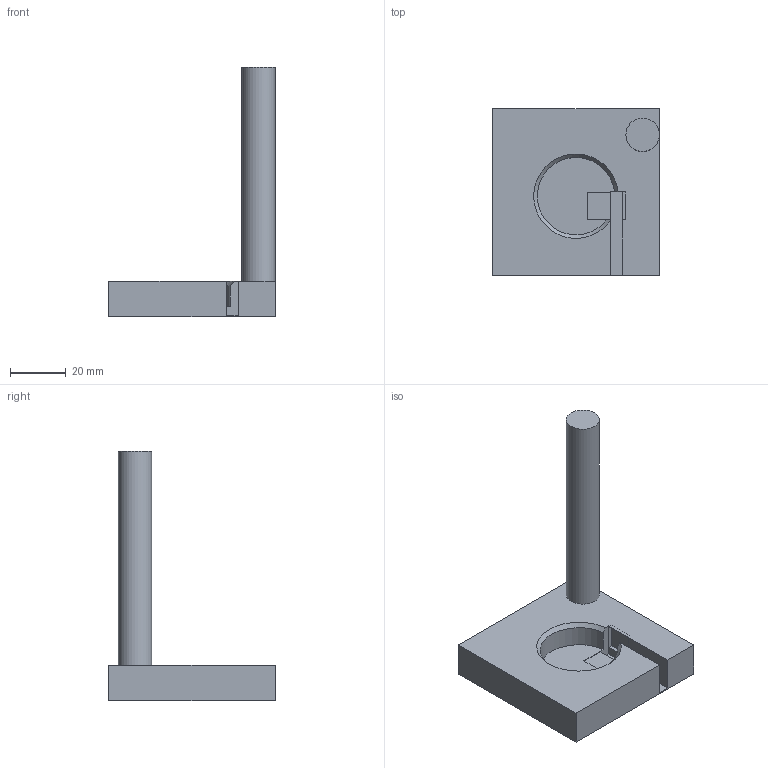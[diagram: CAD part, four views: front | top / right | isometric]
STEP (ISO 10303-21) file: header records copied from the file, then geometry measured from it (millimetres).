
FILE_DESCRIPTION(('Open CASCADE Model'),'2;1');
FILE_NAME('Open CASCADE Shape Model','2026-08-23T08:04:36',('Author'),( 'Open CASCADE'),'Open CASCADE STEP processor 7.9','Open CASCADE 7.9' ,'Unknown');
FILE_SCHEMA(('AUTOMOTIVE_DESIGN { 1 0 10303 214 1 1 1 1 }'));
Length unit declared in the file: millimetre
Products named in the file (2): =>[0:1:1:2]; COMPOUND
Assembly tree (1 placements, depth 2):
  =>[0:1:1:2]
    COMPOUND
Bounding box: 60 x 60 x 90 mm (x, y, z)
Volume: 47577.7 mm3; surface area: 14515 mm2
Topology: 1 solids, 1 shells, 24 faces, 61 edges, 40 vertices
Faces by surface type: plane 21, cylinder 2, cone 1
Full cylindrical faces by diameter (mm): 12 x1
Entity records: 1524 total; most frequent: CARTESIAN_POINT 311, DIRECTION 197, LINE 125, VECTOR 125, ORIENTED_EDGE 122, PCURVE 122, DEFINITIONAL_REPRESENTATION 122, EDGE_CURVE 61
